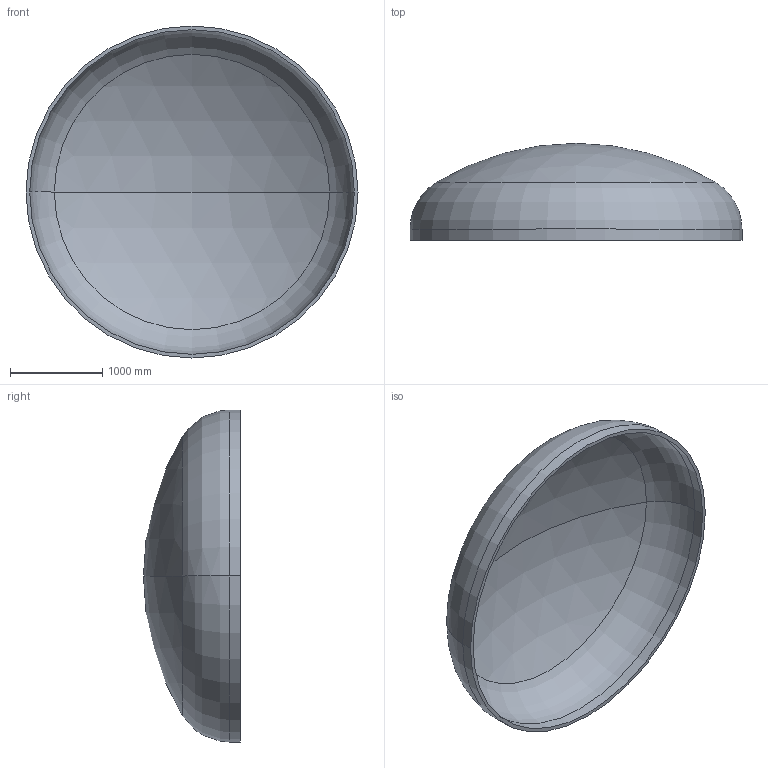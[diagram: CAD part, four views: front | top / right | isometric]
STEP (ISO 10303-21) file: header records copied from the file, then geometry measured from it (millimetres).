
FILE_DESCRIPTION (( 'STEP AP203' ), '1' );
FILE_NAME ('DIN 28013 Korbbogenform_-_Boden DIN 28013 - 3600 x 120 - I - s=40.step', '2016-07-01T20:24:40', ( '' ), ( '' ), 'SwSTEP 2.0', 'SolidWorks 2013', '' );
FILE_SCHEMA (( 'CONFIG_CONTROL_DESIGN' ));
Length unit declared in the file: millimetre
Products named in the file (1): DIN 28013 Korbbogenform_-_Boden DIN 28013 - 3600 x 120 - I - s=40
Bounding box: 3600 x 1051.63 x 3600 mm (x, y, z)
Volume: 609474159 mm3; surface area: 30924410.7 mm2
Topology: 1 solids, 1 shells, 13 faces, 24 edges, 14 vertices
Faces by surface type: torus 4, cylinder 4, sphere 4, plane 1
Entity records: 407 total; most frequent: DIRECTION 72, CARTESIAN_POINT 52, ORIENTED_EDGE 48, AXIS2_PLACEMENT_3D 34, EDGE_CURVE 24, CIRCLE 20, VERTEX_POINT 14, EDGE_LOOP 14
